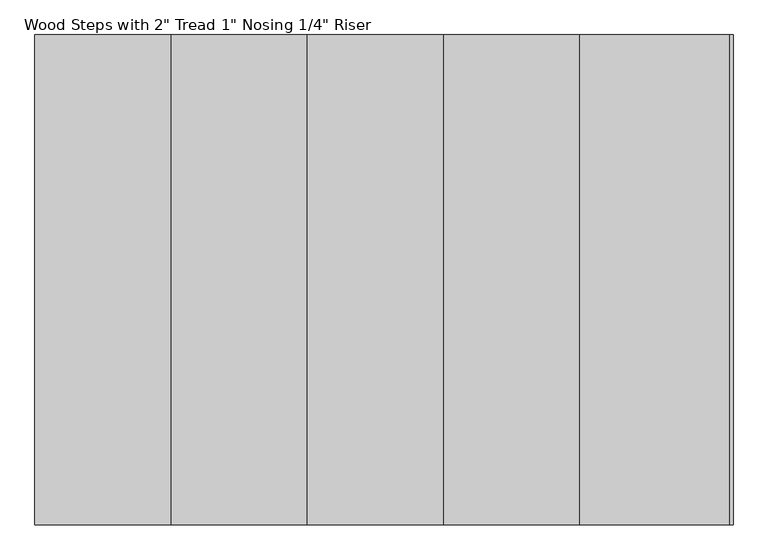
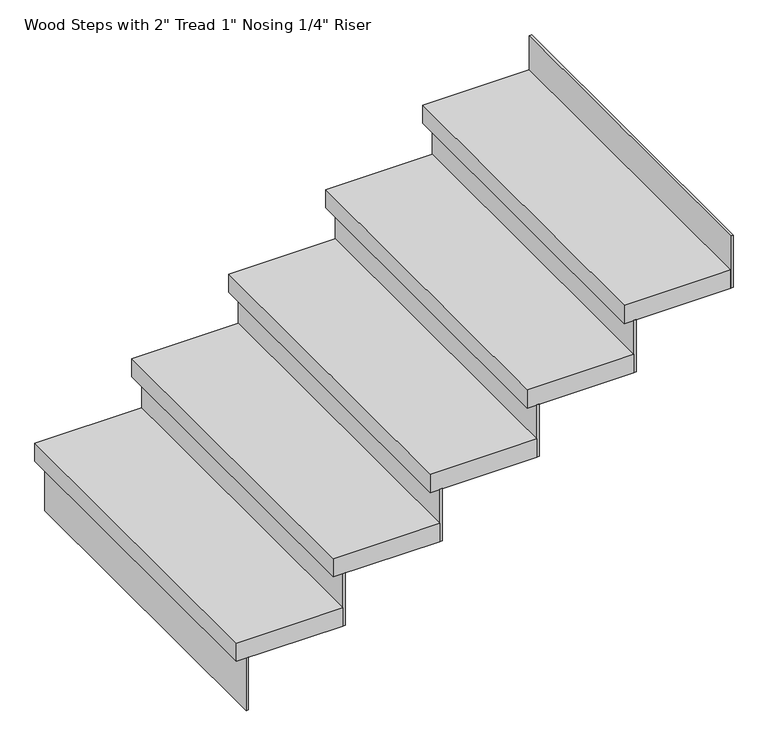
"""IFC4 building model written with IfcOpenShell, lengths in millimetres: stair flight geometry."""

from ifc_helpers import new_model, si_unit, frame, origin, place, context, project, spatial, polyline, outline, extrude, source, transform, mapped, element, save


def stair_flight_3877abb4(model_context):
    return source(origin(), model_context, "Body", "SweptSolid", [
        extrude(outline(polyline([(-45773.3618252, 23464.6076385), (-45779.7118252, 23464.6076385), (-45779.7118252, 24379.0076385), (-45773.3618252, 24379.0076385), (-45773.3618252, 23464.6076385)])), frame((0.0, 0.0, 2126.3428571), z_axis=(0.0, 0.0, 1.0), x_axis=(1.0, 0.0, 0.0)), (0.0, 0.0, 1.0), 145.1428571),
        extrude(outline(polyline([(-45525.7118252, 24379.0076385), (-45525.7118252, 23464.6076385), (-45805.1118252, 23464.6076385), (-45805.1118252, 24379.0076385), (-45525.7118252, 24379.0076385)])), frame((0.0, 0.0, 2271.4857143), z_axis=(0.0, 0.0, 1.0), x_axis=(1.0, 0.0, 0.0)), (0.0, 0.0, 1.0), 50.8),
        extrude(outline(polyline([(-45519.3618252, 23464.6076385), (-45525.7118252, 23464.6076385), (-45525.7118252, 24379.0076385), (-45519.3618252, 24379.0076385), (-45519.3618252, 23464.6076385)])), frame((0.0, 0.0, 2271.4857143), z_axis=(0.0, 0.0, 1.0), x_axis=(1.0, 0.0, 0.0)), (0.0, 0.0, 1.0), 145.1428571),
        extrude(outline(polyline([(-45271.7118252, 24379.0076385), (-45271.7118252, 23464.6076385), (-45551.1118252, 23464.6076385), (-45551.1118252, 24379.0076385), (-45271.7118252, 24379.0076385)])), frame((0.0, 0.0, 2416.6285714), z_axis=(0.0, 0.0, 1.0), x_axis=(1.0, 0.0, 0.0)), (0.0, 0.0, 1.0), 50.8),
        extrude(outline(polyline([(-45265.3618252, 23464.6076385), (-45271.7118252, 23464.6076385), (-45271.7118252, 24379.0076385), (-45265.3618252, 24379.0076385), (-45265.3618252, 23464.6076385)])), frame((0.0, 0.0, 2416.6285714), z_axis=(0.0, 0.0, 1.0), x_axis=(1.0, 0.0, 0.0)), (0.0, 0.0, 1.0), 145.1428571),
        extrude(outline(polyline([(-45017.7118252, 24379.0076385), (-45017.7118252, 23464.6076385), (-45297.1118252, 23464.6076385), (-45297.1118252, 24379.0076385), (-45017.7118252, 24379.0076385)])), frame((0.0, 0.0, 2561.7714286), z_axis=(0.0, 0.0, 1.0), x_axis=(1.0, 0.0, 0.0)), (0.0, 0.0, 1.0), 50.8),
        extrude(outline(polyline([(-45011.3618252, 23464.6076385), (-45017.7118252, 23464.6076385), (-45017.7118252, 24379.0076385), (-45011.3618252, 24379.0076385), (-45011.3618252, 23464.6076385)])), frame((0.0, 0.0, 2561.7714286), z_axis=(0.0, 0.0, 1.0), x_axis=(1.0, 0.0, 0.0)), (0.0, 0.0, 1.0), 145.1428571),
        extrude(outline(polyline([(-44763.7118252, 24379.0076385), (-44763.7118252, 23464.6076385), (-45043.1118252, 23464.6076385), (-45043.1118252, 24379.0076385), (-44763.7118252, 24379.0076385)])), frame((0.0, 0.0, 2706.9142857), z_axis=(0.0, 0.0, 1.0), x_axis=(1.0, 0.0, 0.0)), (0.0, 0.0, 1.0), 50.8),
        extrude(outline(polyline([(-44757.3618252, 23464.6076385), (-44763.7118252, 23464.6076385), (-44763.7118252, 24379.0076385), (-44757.3618252, 24379.0076385), (-44757.3618252, 23464.6076385)])), frame((0.0, 0.0, 2706.9142857), z_axis=(0.0, 0.0, 1.0), x_axis=(1.0, 0.0, 0.0)), (0.0, 0.0, 1.0), 145.1428571),
        extrude(outline(polyline([(-44503.3618252, 23464.6076385), (-44509.7118252, 23464.6076385), (-44509.7118252, 24379.0076385), (-44503.3618252, 24379.0076385), (-44503.3618252, 23464.6076385)])), frame((0.0, 0.0, 2852.0571429), z_axis=(0.0, 0.0, 1.0), x_axis=(1.0, 0.0, 0.0)), (0.0, 0.0, 1.0), 145.1428571),
        extrude(outline(polyline([(-44509.7118252, 24379.0076385), (-44509.7118252, 23464.6076385), (-44789.1118252, 23464.6076385), (-44789.1118252, 24379.0076385), (-44509.7118252, 24379.0076385)])), frame((0.0, 0.0, 2852.0571429), z_axis=(0.0, 0.0, 1.0), x_axis=(1.0, 0.0, 0.0)), (0.0, 0.0, 1.0), 50.8),
    ])


if __name__ == "__main__":
    model = new_model("IFC4")
    model_context = context("Model", 3, world=origin())
    ifc_project = project(units=[si_unit("LENGTHUNIT", "METRE", prefix="MILLI")], contexts=[model_context])
    site = spatial("IfcSite", under=ifc_project)
    building = spatial("IfcBuilding", under=site)
    placement = place(None, origin())
    stair_flight_shape = stair_flight_3877abb4(model_context)
    element("IfcStairFlight", 1, ObjectType="Wood Steps with 2\" Tread 1\" Nosing 1/4\" Riser", at=placement, inside=building, context=model_context, shape_type="MappedRepresentation", body=[
        mapped(stair_flight_shape, transform((0.0, 0.0, 0.0), x_axis=(1.0, 0.0, 0.0), y_axis=(0.0, 1.0, 0.0), z_axis=(0.0, 0.0, 1.0))),
    ])
    save(model, "model.ifc")
